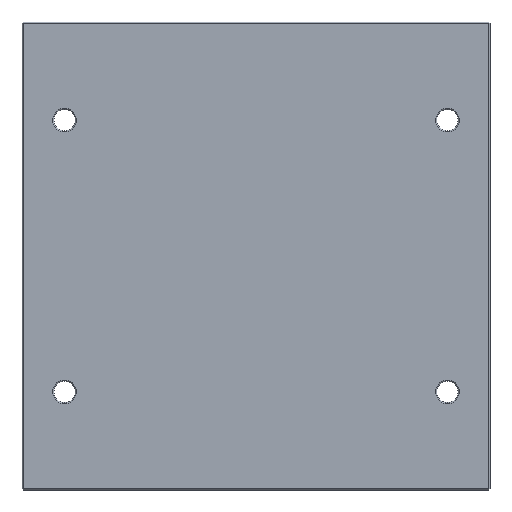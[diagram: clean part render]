
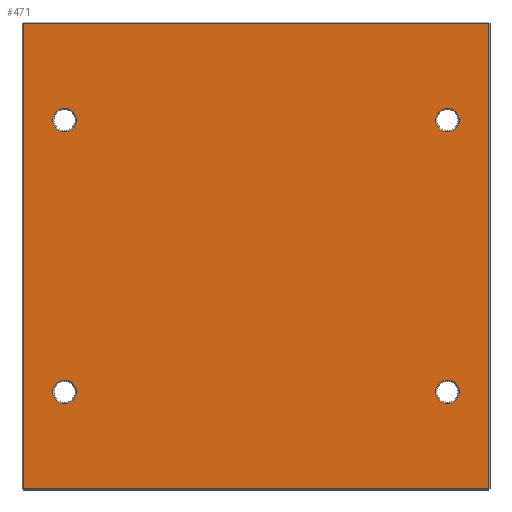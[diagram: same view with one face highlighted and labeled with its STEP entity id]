
A CAD part, front view. The second image highlights one B-rep face of the part: STEP entity #471.
In plain terms, the highlighted planar face has unit normal (0, -1, 0).
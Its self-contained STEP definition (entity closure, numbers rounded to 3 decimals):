
#8 = CARTESIAN_POINT ( 'NONE',  ( -162., 0., -115. ) ) ;
#20 = FACE_BOUND ( 'NONE', #1310, .T. ) ;
#21 = AXIS2_PLACEMENT_3D ( 'NONE', #1370, #1251, #1299 ) ;
#30 = DIRECTION ( 'NONE',  ( 0., 0., 1. ) ) ;
#34 = VERTEX_POINT ( 'NONE', #1099 ) ;
#47 = ORIENTED_EDGE ( 'NONE', *, *, #521, .T. ) ;
#50 = EDGE_CURVE ( 'NONE', #881, #1529, #1395, .T. ) ;
#55 = EDGE_LOOP ( 'NONE', ( #729, #863 ) ) ;
#85 = ORIENTED_EDGE ( 'NONE', *, *, #1610, .T. ) ;
#92 = ORIENTED_EDGE ( 'NONE', *, *, #50, .T. ) ;
#111 = CARTESIAN_POINT ( 'NONE',  ( -162., 0., 125. ) ) ;
#115 = ORIENTED_EDGE ( 'NONE', *, *, #1136, .T. ) ;
#250 = AXIS2_PLACEMENT_3D ( 'NONE', #1305, #1250, #1309 ) ;
#263 = VERTEX_POINT ( 'NONE', #925 ) ;
#283 = VERTEX_POINT ( 'NONE', #677 ) ;
#287 = CIRCLE ( 'NONE', #21, 10. ) ;
#291 = FACE_OUTER_BOUND ( 'NONE', #1404, .T. ) ;
#296 = CARTESIAN_POINT ( 'NONE',  ( 197., 0., 197. ) ) ;
#314 = VERTEX_POINT ( 'NONE', #296 ) ;
#335 = AXIS2_PLACEMENT_3D ( 'NONE', #1397, #518, #494 ) ;
#354 = ORIENTED_EDGE ( 'NONE', *, *, #1086, .T. ) ;
#423 = CIRCLE ( 'NONE', #1085, 10. ) ;
#429 = EDGE_CURVE ( 'NONE', #1199, #1252, #423, .T. ) ;
#448 = LINE ( 'NONE', #1072, #816 ) ;
#451 = ORIENTED_EDGE ( 'NONE', *, *, #1415, .T. ) ;
#471 = ADVANCED_FACE ( 'NONE', ( #20, #630, #1640, #978, #291 ), #1351, .F. ) ;
#494 = DIRECTION ( 'NONE',  ( 0., 0., 1. ) ) ;
#518 = DIRECTION ( 'NONE',  ( 0., 1., 0. ) ) ;
#521 = EDGE_CURVE ( 'NONE', #283, #314, #448, .T. ) ;
#524 = CARTESIAN_POINT ( 'NONE',  ( 0., 0., 197. ) ) ;
#553 = ORIENTED_EDGE ( 'NONE', *, *, #656, .T. ) ;
#554 = EDGE_LOOP ( 'NONE', ( #451, #592 ) ) ;
#565 = DIRECTION ( 'NONE',  ( -1., 0., 0. ) ) ;
#573 = EDGE_CURVE ( 'NONE', #34, #1389, #724, .T. ) ;
#575 = AXIS2_PLACEMENT_3D ( 'NONE', #8, #1583, #30 ) ;
#582 = CARTESIAN_POINT ( 'NONE',  ( -197., 0., -197. ) ) ;
#592 = ORIENTED_EDGE ( 'NONE', *, *, #688, .T. ) ;
#630 = FACE_BOUND ( 'NONE', #554, .T. ) ;
#656 = EDGE_CURVE ( 'NONE', #1409, #918, #287, .T. ) ;
#667 = AXIS2_PLACEMENT_3D ( 'NONE', #1008, #1060, #1127 ) ;
#677 = CARTESIAN_POINT ( 'NONE',  ( 197., 0., -197. ) ) ;
#680 = DIRECTION ( 'NONE',  ( 0., 0., 1. ) ) ;
#688 = EDGE_CURVE ( 'NONE', #1627, #263, #1597, .T. ) ;
#693 = DIRECTION ( 'NONE',  ( 0., 1., 0. ) ) ;
#700 = CARTESIAN_POINT ( 'NONE',  ( 162., 0., -115. ) ) ;
#707 = CIRCLE ( 'NONE', #250, 10. ) ;
#718 = VECTOR ( 'NONE', #1221, 1000. ) ;
#724 = CIRCLE ( 'NONE', #575, 10. ) ;
#729 = ORIENTED_EDGE ( 'NONE', *, *, #1287, .T. ) ;
#771 = LINE ( 'NONE', #1368, #1419 ) ;
#811 = VECTOR ( 'NONE', #565, 1000. ) ;
#816 = VECTOR ( 'NONE', #1015, 1000. ) ;
#863 = ORIENTED_EDGE ( 'NONE', *, *, #429, .T. ) ;
#881 = VERTEX_POINT ( 'NONE', #1528 ) ;
#918 = VERTEX_POINT ( 'NONE', #1474 ) ;
#925 = CARTESIAN_POINT ( 'NONE',  ( 162., 0., 105. ) ) ;
#967 = DIRECTION ( 'NONE',  ( 0., 1., 0. ) ) ;
#978 = FACE_BOUND ( 'NONE', #1118, .T. ) ;
#993 = CIRCLE ( 'NONE', #1509, 10. ) ;
#1008 = CARTESIAN_POINT ( 'NONE',  ( 162., 0., 115. ) ) ;
#1011 = AXIS2_PLACEMENT_3D ( 'NONE', #700, #693, #680 ) ;
#1015 = DIRECTION ( 'NONE',  ( 0., 0., 1. ) ) ;
#1035 = ORIENTED_EDGE ( 'NONE', *, *, #1406, .T. ) ;
#1060 = DIRECTION ( 'NONE',  ( 0., 1., 0. ) ) ;
#1072 = CARTESIAN_POINT ( 'NONE',  ( 197., 0., 0. ) ) ;
#1085 = AXIS2_PLACEMENT_3D ( 'NONE', #1492, #1495, #1502 ) ;
#1086 = EDGE_CURVE ( 'NONE', #918, #1409, #1276, .T. ) ;
#1092 = CARTESIAN_POINT ( 'NONE',  ( -197., 0., 0. ) ) ;
#1099 = CARTESIAN_POINT ( 'NONE',  ( -162., 0., -105. ) ) ;
#1118 = EDGE_LOOP ( 'NONE', ( #1035, #1603 ) ) ;
#1127 = DIRECTION ( 'NONE',  ( 0., 0., 1. ) ) ;
#1136 = EDGE_CURVE ( 'NONE', #314, #881, #1186, .T. ) ;
#1186 = LINE ( 'NONE', #524, #811 ) ;
#1199 = VERTEX_POINT ( 'NONE', #111 ) ;
#1221 = DIRECTION ( 'NONE',  ( 0., 0., -1. ) ) ;
#1222 = DIRECTION ( 'NONE',  ( 0., 1., 0. ) ) ;
#1250 = DIRECTION ( 'NONE',  ( 0., 1., 0. ) ) ;
#1251 = DIRECTION ( 'NONE',  ( 0., 1., 0. ) ) ;
#1252 = VERTEX_POINT ( 'NONE', #1544 ) ;
#1276 = CIRCLE ( 'NONE', #1011, 10. ) ;
#1277 = CARTESIAN_POINT ( 'NONE',  ( 162., 0., -105. ) ) ;
#1287 = EDGE_CURVE ( 'NONE', #1252, #1199, #993, .T. ) ;
#1299 = DIRECTION ( 'NONE',  ( 0., 0., 1. ) ) ;
#1305 = CARTESIAN_POINT ( 'NONE',  ( -162., 0., -115. ) ) ;
#1309 = DIRECTION ( 'NONE',  ( 0., 0., 1. ) ) ;
#1310 = EDGE_LOOP ( 'NONE', ( #354, #553 ) ) ;
#1312 = AXIS2_PLACEMENT_3D ( 'NONE', #1381, #1222, #1394 ) ;
#1351 = PLANE ( 'NONE',  #1312 ) ;
#1368 = CARTESIAN_POINT ( 'NONE',  ( 0., 0., -197. ) ) ;
#1370 = CARTESIAN_POINT ( 'NONE',  ( 162., 0., -115. ) ) ;
#1381 = CARTESIAN_POINT ( 'NONE',  ( 0., 0., 0. ) ) ;
#1389 = VERTEX_POINT ( 'NONE', #1581 ) ;
#1394 = DIRECTION ( 'NONE',  ( 0., 0., 1. ) ) ;
#1395 = LINE ( 'NONE', #1092, #718 ) ;
#1397 = CARTESIAN_POINT ( 'NONE',  ( 162., 0., 115. ) ) ;
#1402 = CARTESIAN_POINT ( 'NONE',  ( 162., 0., 125. ) ) ;
#1403 = CIRCLE ( 'NONE', #335, 10. ) ;
#1404 = EDGE_LOOP ( 'NONE', ( #47, #115, #92, #85 ) ) ;
#1406 = EDGE_CURVE ( 'NONE', #1389, #34, #707, .T. ) ;
#1409 = VERTEX_POINT ( 'NONE', #1277 ) ;
#1415 = EDGE_CURVE ( 'NONE', #263, #1627, #1403, .T. ) ;
#1419 = VECTOR ( 'NONE', #1655, 1000. ) ;
#1474 = CARTESIAN_POINT ( 'NONE',  ( 162., 0., -125. ) ) ;
#1492 = CARTESIAN_POINT ( 'NONE',  ( -162., 0., 115. ) ) ;
#1495 = DIRECTION ( 'NONE',  ( 0., 1., 0. ) ) ;
#1502 = DIRECTION ( 'NONE',  ( 0., 0., 1. ) ) ;
#1509 = AXIS2_PLACEMENT_3D ( 'NONE', #1587, #967, #1525 ) ;
#1525 = DIRECTION ( 'NONE',  ( 0., 0., 1. ) ) ;
#1528 = CARTESIAN_POINT ( 'NONE',  ( -197., 0., 197. ) ) ;
#1529 = VERTEX_POINT ( 'NONE', #582 ) ;
#1544 = CARTESIAN_POINT ( 'NONE',  ( -162., 0., 105. ) ) ;
#1581 = CARTESIAN_POINT ( 'NONE',  ( -162., 0., -125. ) ) ;
#1583 = DIRECTION ( 'NONE',  ( 0., 1., 0. ) ) ;
#1587 = CARTESIAN_POINT ( 'NONE',  ( -162., 0., 115. ) ) ;
#1597 = CIRCLE ( 'NONE', #667, 10. ) ;
#1603 = ORIENTED_EDGE ( 'NONE', *, *, #573, .T. ) ;
#1610 = EDGE_CURVE ( 'NONE', #1529, #283, #771, .T. ) ;
#1627 = VERTEX_POINT ( 'NONE', #1402 ) ;
#1640 = FACE_BOUND ( 'NONE', #55, .T. ) ;
#1655 = DIRECTION ( 'NONE',  ( 1., 0., 0. ) ) ;
